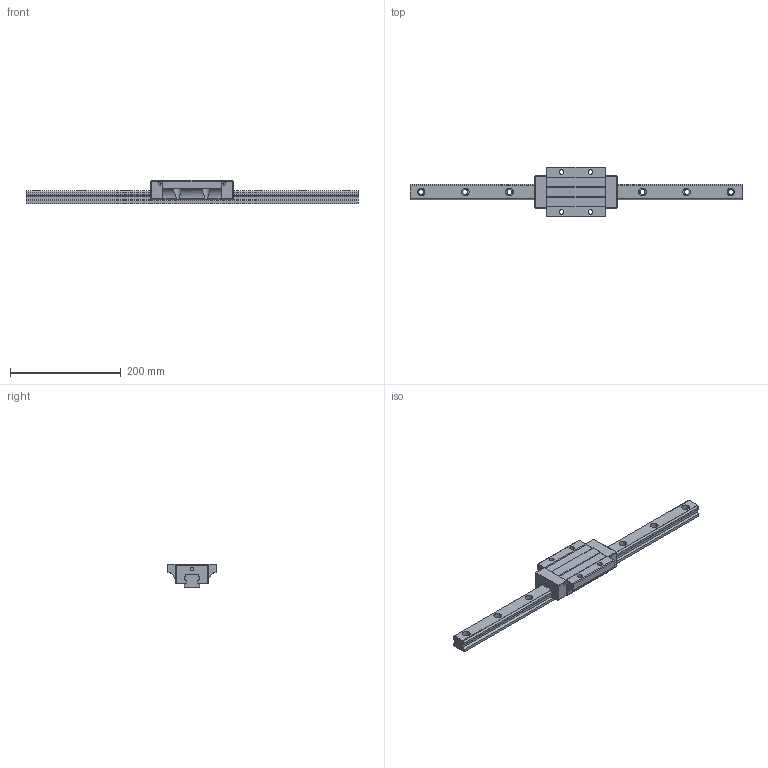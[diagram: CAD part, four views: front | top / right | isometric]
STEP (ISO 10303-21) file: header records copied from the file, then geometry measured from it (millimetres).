
FILE_DESCRIPTION (( 'STEP AP203' ), '1' );
FILE_NAME ('TRH30FE-DU.STEP', '2024-06-28T02:01:18', ( '' ), ( '' ), 'SwSTEP 2.0', 'SolidWorks 2022', '' );
FILE_SCHEMA (( 'CONFIG_CONTROL_DESIGN' ));
Length unit declared in the file: millimetre
Products named in the file (1): TRH30FE-DU
Bounding box: 600 x 90 x 42 mm (x, y, z)
Volume: 605285.2 mm3; surface area: 115208.7 mm2
Topology: 2 solids, 2 shells, 214 faces, 580 edges, 380 vertices
Faces by surface type: cylinder 116, plane 94, sphere 4
Entity records: 7465 total; most frequent: CARTESIAN_POINT 1829, DIRECTION 1184, ORIENTED_EDGE 1152, EDGE_CURVE 576, AXIS2_PLACEMENT_3D 421, VERTEX_POINT 380, VECTOR 342, LINE 342
